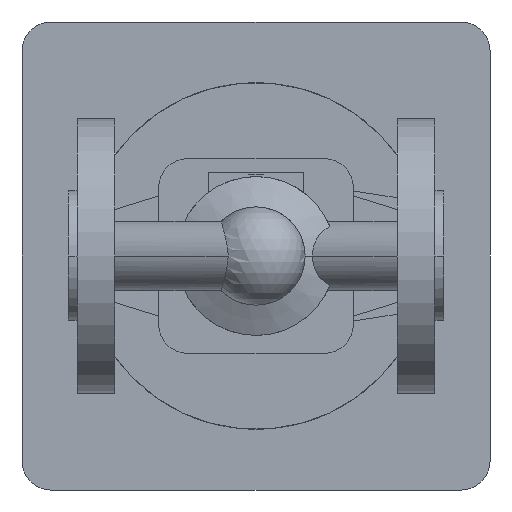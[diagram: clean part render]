
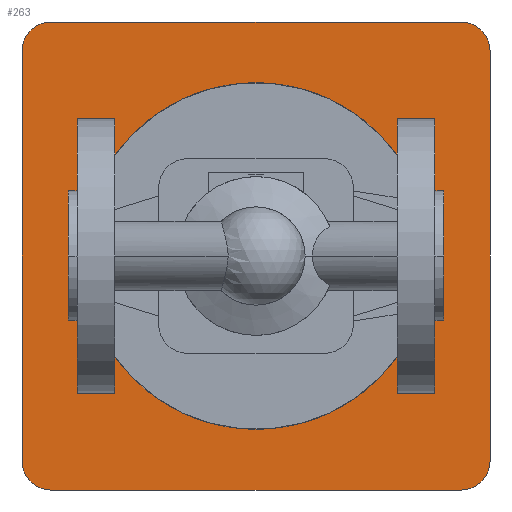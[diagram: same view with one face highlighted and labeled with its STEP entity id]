
A CAD part, front view. The second image highlights one B-rep face of the part: STEP entity #263.
In plain terms, the highlighted planar face has unit normal (0, -1, 0).
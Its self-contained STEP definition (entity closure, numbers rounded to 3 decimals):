
#263 = ADVANCED_FACE( '', ( #603, #604 ), #605, .F. );
#603 = FACE_OUTER_BOUND( '', #969, .T. );
#604 = FACE_BOUND( '', #970, .T. );
#605 = PLANE( '', #971 );
#969 = EDGE_LOOP( '', ( #2116, #2117, #2118, #2119, #2120, #2121, #2122, #2123 ) );
#970 = EDGE_LOOP( '', ( #2124, #2125 ) );
#971 = AXIS2_PLACEMENT_3D( '', #2126, #2127, #2128 );
#2116 = ORIENTED_EDGE( '', *, *, #2645, .F. );
#2117 = ORIENTED_EDGE( '', *, *, #2646, .F. );
#2118 = ORIENTED_EDGE( '', *, *, #2647, .F. );
#2119 = ORIENTED_EDGE( '', *, *, #2648, .F. );
#2120 = ORIENTED_EDGE( '', *, *, #2649, .F. );
#2121 = ORIENTED_EDGE( '', *, *, #2650, .F. );
#2122 = ORIENTED_EDGE( '', *, *, #2651, .F. );
#2123 = ORIENTED_EDGE( '', *, *, #2652, .F. );
#2124 = ORIENTED_EDGE( '', *, *, #2560, .F. );
#2125 = ORIENTED_EDGE( '', *, *, #2653, .F. );
#2126 = CARTESIAN_POINT( '', ( 65., 380., 0. ) );
#2127 = DIRECTION( '', ( 0., 1., 0. ) );
#2128 = DIRECTION( '', ( 0., 0., 1. ) );
#2560 = EDGE_CURVE( '', #3135, #3138, #3139, .T. );
#2645 = EDGE_CURVE( '', #3282, #3283, #3284, .T. );
#2646 = EDGE_CURVE( '', #3285, #3282, #3286, .T. );
#2647 = EDGE_CURVE( '', #3287, #3285, #3288, .T. );
#2648 = EDGE_CURVE( '', #3289, #3287, #3290, .T. );
#2649 = EDGE_CURVE( '', #3291, #3289, #3292, .T. );
#2650 = EDGE_CURVE( '', #3293, #3291, #3294, .T. );
#2651 = EDGE_CURVE( '', #3295, #3293, #3296, .T. );
#2652 = EDGE_CURVE( '', #3283, #3295, #3297, .T. );
#2653 = EDGE_CURVE( '', #3138, #3135, #3298, .T. );
#3135 = VERTEX_POINT( '', #4223 );
#3138 = VERTEX_POINT( '', #4227 );
#3139 = CIRCLE( '', #4228, 40. );
#3282 = VERTEX_POINT( '', #4426 );
#3283 = VERTEX_POINT( '', #4427 );
#3284 = CIRCLE( '', #4428, 10. );
#3285 = VERTEX_POINT( '', #4429 );
#3286 = LINE( '', #4430, #4431 );
#3287 = VERTEX_POINT( '', #4432 );
#3288 = CIRCLE( '', #4433, 10. );
#3289 = VERTEX_POINT( '', #4434 );
#3290 = LINE( '', #4435, #4436 );
#3291 = VERTEX_POINT( '', #4437 );
#3292 = CIRCLE( '', #4438, 10. );
#3293 = VERTEX_POINT( '', #4439 );
#3294 = LINE( '', #4440, #4441 );
#3295 = VERTEX_POINT( '', #4442 );
#3296 = CIRCLE( '', #4443, 10. );
#3297 = LINE( '', #4444, #4445 );
#3298 = CIRCLE( '', #4446, 40. );
#4223 = CARTESIAN_POINT( '', ( 25., 380., 0. ) );
#4227 = CARTESIAN_POINT( '', ( 105., 380., 0. ) );
#4228 = AXIS2_PLACEMENT_3D( '', #5005, #5006, #5007 );
#4426 = CARTESIAN_POINT( '', ( -16., 380., 71. ) );
#4427 = CARTESIAN_POINT( '', ( -6., 380., 81. ) );
#4428 = AXIS2_PLACEMENT_3D( '', #5150, #5151, #5152 );
#4429 = CARTESIAN_POINT( '', ( -16., 380., -71. ) );
#4430 = CARTESIAN_POINT( '', ( -16., 380., -71. ) );
#4431 = VECTOR( '', #5153, 1. );
#4432 = CARTESIAN_POINT( '', ( -6., 380., -81. ) );
#4433 = AXIS2_PLACEMENT_3D( '', #5154, #5155, #5156 );
#4434 = CARTESIAN_POINT( '', ( 136., 380., -81. ) );
#4435 = CARTESIAN_POINT( '', ( 136., 380., -81. ) );
#4436 = VECTOR( '', #5157, 1. );
#4437 = CARTESIAN_POINT( '', ( 146., 380., -71. ) );
#4438 = AXIS2_PLACEMENT_3D( '', #5158, #5159, #5160 );
#4439 = CARTESIAN_POINT( '', ( 146., 380., 71. ) );
#4440 = CARTESIAN_POINT( '', ( 146., 380., 71. ) );
#4441 = VECTOR( '', #5161, 1. );
#4442 = CARTESIAN_POINT( '', ( 136., 380., 81. ) );
#4443 = AXIS2_PLACEMENT_3D( '', #5162, #5163, #5164 );
#4444 = CARTESIAN_POINT( '', ( -6., 380., 81. ) );
#4445 = VECTOR( '', #5165, 1. );
#4446 = AXIS2_PLACEMENT_3D( '', #5166, #5167, #5168 );
#5005 = CARTESIAN_POINT( '', ( 65., 380., 0. ) );
#5006 = DIRECTION( '', ( 0., -1., 0. ) );
#5007 = DIRECTION( '', ( -1., 0., 0. ) );
#5150 = CARTESIAN_POINT( '', ( -6., 380., 71. ) );
#5151 = DIRECTION( '', ( 0., 1., 0. ) );
#5152 = DIRECTION( '', ( -1., 0., 0. ) );
#5153 = DIRECTION( '', ( 0., 0., 1. ) );
#5154 = CARTESIAN_POINT( '', ( -6., 380., -71. ) );
#5155 = DIRECTION( '', ( 0., 1., 0. ) );
#5156 = DIRECTION( '', ( 0., 0., -1. ) );
#5157 = DIRECTION( '', ( -1., 0., 0. ) );
#5158 = CARTESIAN_POINT( '', ( 136., 380., -71. ) );
#5159 = DIRECTION( '', ( 0., 1., 0. ) );
#5160 = DIRECTION( '', ( 1., 0., 0. ) );
#5161 = DIRECTION( '', ( 0., 0., -1. ) );
#5162 = CARTESIAN_POINT( '', ( 136., 380., 71. ) );
#5163 = DIRECTION( '', ( 0., 1., 0. ) );
#5164 = DIRECTION( '', ( 0., 0., 1. ) );
#5165 = DIRECTION( '', ( 1., 0., 0. ) );
#5166 = CARTESIAN_POINT( '', ( 65., 380., 0. ) );
#5167 = DIRECTION( '', ( 0., -1., 0. ) );
#5168 = DIRECTION( '', ( -1., 0., 0. ) );
